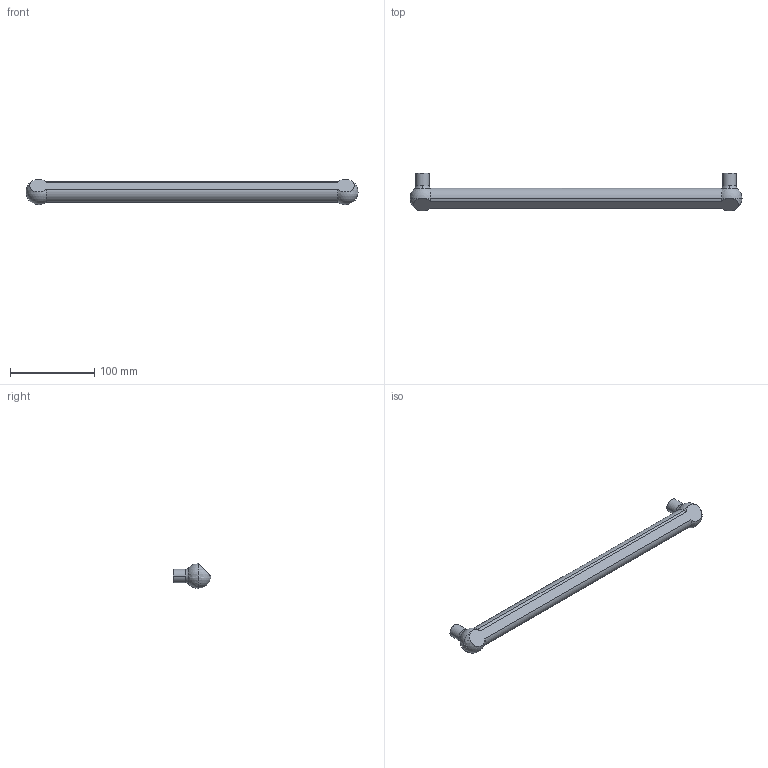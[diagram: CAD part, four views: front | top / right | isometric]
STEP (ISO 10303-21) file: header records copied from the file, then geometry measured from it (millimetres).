
FILE_DESCRIPTION( ( '' ), '1' );
FILE_NAME( 'D:/1.AUTOCAD EXPORT/Group 10/sheet_10_1/9105769.stp', '2013-10-18T08:21:10', ( '' ), ( '' ), ' ', ' ', ' ' );
FILE_SCHEMA( ( 'automotive_design' ) );
Length unit declared in the file: millimetre
Products named in the file (1): 1
Bounding box: 395 x 45 x 30 mm (x, y, z)
Volume: 183395 mm3; surface area: 32294.5 mm2
Topology: 1 solids, 1 shells, 26 faces, 72 edges, 40 vertices
Faces by surface type: cylinder 11, sphere 6, plane 5, torus 4
Entity records: 1548 total; most frequent: DIRECTION 162, CARTESIAN_POINT 157, STYLED_ITEM 129, PRESENTATION_STYLE_ASSIGNMENT 129, COLOUR_RGB 129, ORIENTED_EDGE 124, AXIS2_PLACEMENT_3D 75, EDGE_CURVE 62
